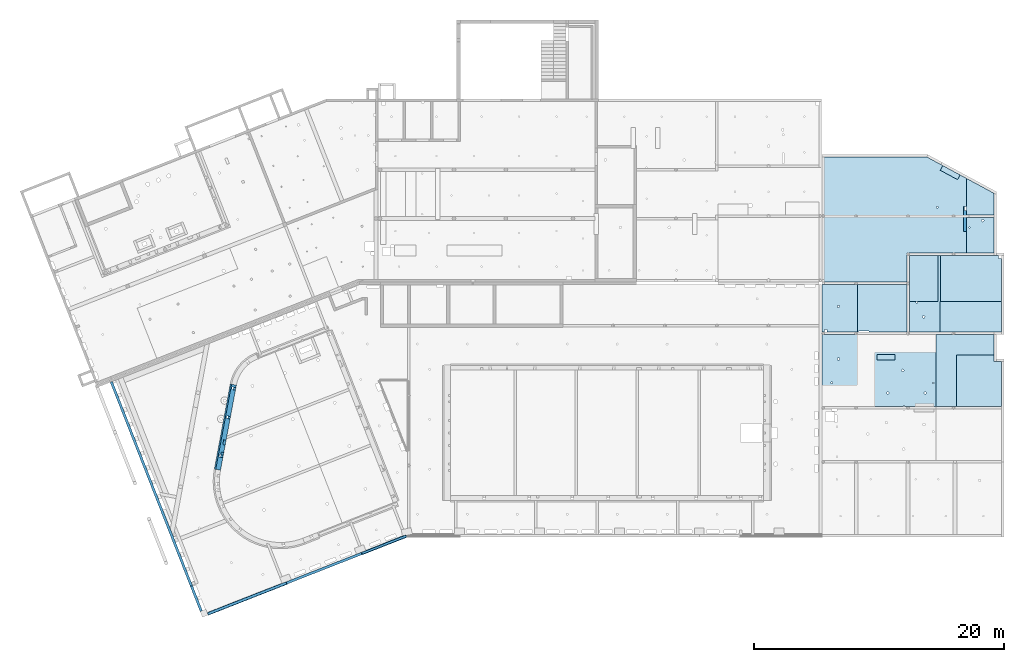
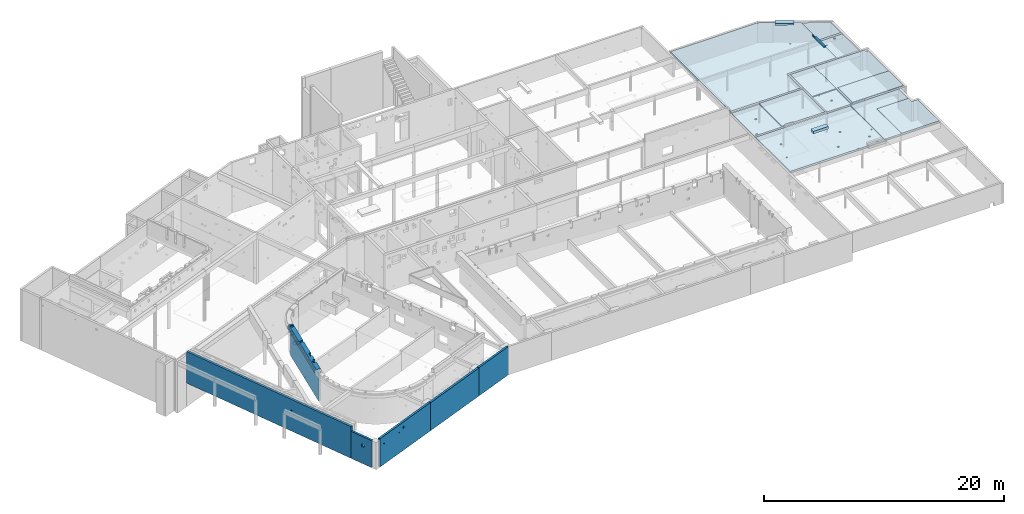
# One storey, part 13 of 28: 15 slabs, 5 walls, 31 openings.
"""IFC2X3 building model written with IfcOpenShell, lengths in metres."""

from ifc_helpers import new_model, entity, si_unit, converted_unit, direction, frame, frame_2d, origin, origin_with_axes, place, context, subcontext, project, spatial, polyline, rectangle, circle, outline, extrude, clip, bounded_halfspace, material, layer, layer_set, layer_usage, element, save


model = new_model("IFC2X3")

# Units and contexts
model_context = context("Model", 3, precision=1e-05, world=origin(), true_north=direction((-0.407059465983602, -0.913401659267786)))
body_context = subcontext(model_context, "Body", "Model", "MODEL_VIEW")
ifc_project = project(units=[si_unit("LENGTHUNIT", "METRE"), si_unit("AREAUNIT", "SQUARE_METRE"), si_unit("VOLUMEUNIT", "CUBIC_METRE"), si_unit("MASSUNIT", "GRAM", prefix="KILO"), converted_unit("PLANEANGLEUNIT", "DEGREE", entity("IfcPlaneAngleMeasure", 0.0174532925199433), si_unit("PLANEANGLEUNIT", "RADIAN"), dimensions=[0, 0, 0, 0, 0, 0, 0])], contexts=[model_context])

# Site, buildings, storey
site_placement = place(None, origin())
site = spatial("IfcSite", under=ifc_project, at=site_placement, Name="Site", CompositionType="ELEMENT")
building_1_placement = place(site_placement, origin())
building_1 = spatial("IfcBuilding", under=site, at=building_1_placement, Name="Site", CompositionType="COMPLEX")
building_2_placement = place(building_1_placement, origin())
building_2 = spatial("IfcBuilding", under=building_1, at=building_2_placement, Name="Bâtiments", CompositionType="ELEMENT")
storey_placement = place(building_2_placement, frame((0.0, 0.0, -5.3)))
storey = spatial("IfcBuildingStorey", under=building_2, at=storey_placement, Name="SOUS-SOL", CompositionType="ELEMENT", Elevation=-5.3)

# Slab, openings
ifc_material_1 = material(Name="Béton")
slab_1_placement = place(storey_placement, frame((70.4327354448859, -9.25751215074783, 4.98)))
slab_1 = element("IfcSlab", 1, at=slab_1_placement, inside=storey, material=ifc_material_1, PredefinedType="FLOOR", context=body_context, shape_type="SweptSolid", body=[
    extrude(outline(polyline([(2.499641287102, 6.16186016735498), (9.61991372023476e-05, 6.16186016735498), (9.61991372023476e-05, 2.0014026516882), (0.0, 5.69254171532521e-05), (2.49959481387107, 0.0), (2.499641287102, 6.16186016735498)])), origin_with_axes(), (0.0, 0.0, 1.0), 0.2),
])
opening_1_placement = place(slab_1_placement, frame((1.06005576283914, 1.14501951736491, 0.0)))
element("IfcOpeningElement", 2, at=opening_1_placement, cuts=slab_1, Name="Trémie dans dalle", ObjectType="Opening", context=body_context, shape_type="SweptSolid", body=[
    extrude(circle(Radius=0.0900000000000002, at=frame_2d((-2.91038304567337e-14, -4.54747350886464e-15), x_axis=(1.0, 0.0))), frame((0.0896285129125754, 0.0896285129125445, 0.0), z_axis=(0.0, 0.0, 1.0), x_axis=(1.0, 0.0, 0.0)), (0.0, 0.0, 1.0), 0.2),
])
opening_2_placement = place(slab_1_placement, frame((0.545326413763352, 2.34288312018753, 0.0)))
element("IfcOpeningElement", 3, at=opening_2_placement, cuts=slab_1, Name="Trémie dans dalle", ObjectType="Opening", context=body_context, shape_type="SweptSolid", body=[
    extrude(rectangle(XDim=0.1, YDim=0.1, at=frame_2d((0.0, 0.0), x_axis=(0.0, -1.0))), frame((0.05, 0.05, 0.0), z_axis=(0.0, 0.0, 1.0), x_axis=(1.0, 0.0, 0.0)), (0.0, 0.0, 1.0), 0.2),
])

# Slab, opening
ifc_material_2 = material(Name="Béton")
slab_2_placement = place(storey_placement, frame((72.7323302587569, -9.25751215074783, 5.06)))
slab_2 = element("IfcSlab", 4, at=slab_2_placement, inside=storey, material=ifc_material_2, PredefinedType="FLOOR", context=body_context, shape_type="SweptSolid", body=[
    extrude(outline(polyline([(0.0, 0.0), (5.0807749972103, 0.0), (5.0807749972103, 6.16186016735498), (4.64732309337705e-05, 6.16186016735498), (0.0, 0.0)])), origin_with_axes(), (0.0, 0.0, 1.0), 0.2),
])
opening_3_placement = place(slab_2_placement, frame((4.83185696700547, 5.91262055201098, 0.0)))
element("IfcOpeningElement", 5, at=opening_3_placement, cuts=slab_2, Name="Trémie dans dalle", ObjectType="Opening", context=body_context, shape_type="SweptSolid", body=[
    extrude(rectangle(XDim=0.25, YDim=0.25, at=frame_2d((0.0, 0.0), x_axis=(0.0, -1.0))), frame((0.125, 0.125, 0.0), z_axis=(0.0, 0.0, 1.0), x_axis=(1.0, 0.0, 0.0)), (0.0, 0.0, 1.0), 0.2),
])

# Slab
ifc_material_3 = material(Name="Béton")
slab_3_placement = place(storey_placement, frame((72.8821039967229, -9.25751215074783, 5.26)))
element("IfcSlab", 6, at=slab_3_placement, inside=storey, material=ifc_material_3, PredefinedType="FLOOR", context=body_context, shape_type="SweptSolid", body=[
    extrude(rectangle(XDim=2.46924607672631, YDim=4.93100125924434, at=frame_2d((2.46550062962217, -1.23462303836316), x_axis=(0.0, -1.0))), frame((0.0, 2.46924607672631, 0.0), z_axis=(0.0, 0.0, 1.0), x_axis=(1.0, 0.0, 0.0)), (0.0, 0.0, 1.0), 0.04),
])

# Slab, opening
ifc_material_4 = material(Name="Béton")
slab_4_placement = place(storey_placement, frame((72.5530044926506, -15.2131733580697, 5.06)))
slab_4 = element("IfcSlab", 7, at=slab_4_placement, inside=storey, material=ifc_material_4, PredefinedType="FLOOR", context=body_context, shape_type="SweptSolid", body=[
    extrude(outline(polyline([(7.24795021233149e-06, 5.75581816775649), (0.0, 0.0), (5.2601017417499, 0.000237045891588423), (5.2601017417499, 3.60152029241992), (4.65949691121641, 3.60152048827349), (4.65984638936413, 5.75581816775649), (7.24795021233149e-06, 5.75581816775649)])), origin_with_axes(), (0.0, 0.0, 1.0), 0.2),
])
opening_4_placement = place(slab_4_placement, frame((5.0114216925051, 3.35203585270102, 0.0)))
element("IfcOpeningElement", 8, at=opening_4_placement, cuts=slab_4, Name="Trémie dans dalle", ObjectType="Opening", context=body_context, shape_type="SweptSolid", body=[
    extrude(rectangle(XDim=0.25, YDim=0.25, at=frame_2d((0.0, 1.81898940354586e-15), x_axis=(0.0, -1.0))), frame((0.125, 0.124999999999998, 0.0), z_axis=(0.0, 0.0, 1.0), x_axis=(1.0, 0.0, 0.0)), (0.0, 0.0, 1.0), 0.2),
])

# Slab, openings
ifc_material_5 = material(Name="Béton")
slab_5_placement = place(storey_placement, frame((63.4333554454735, -15.2137450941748, 4.98)))
slab_5 = element("IfcSlab", 9, at=slab_5_placement, inside=storey, material=ifc_material_5, PredefinedType="FLOOR", context=body_context, shape_type="SweptSolid", body=[
    extrude(outline(polyline([(0.000113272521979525, 5.76642007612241), (0.0, 0.0), (9.31965629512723, 0.0), (9.3196562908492, 5.76639849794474), (7.3543008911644, 5.76636366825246), (6.89947525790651, 5.76630680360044), (2.73956105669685, 5.76630680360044), (0.000103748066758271, 5.76645834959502), (0.000113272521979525, 5.76642007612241)])), origin_with_axes(), (0.0, 0.0, 1.0), 0.2),
])
opening_5_placement = place(slab_5_placement, frame((6.52432395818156, 0.000523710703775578, 0.0)))
element("IfcOpeningElement", 10, at=opening_5_placement, cuts=slab_5, Name="Trémie dans dalle", ObjectType="Opening", context=body_context, shape_type="SweptSolid", body=[
    extrude(rectangle(XDim=0.1, YDim=0.1, at=frame_2d((-1.45519152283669e-14, -3.63797880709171e-15), x_axis=(0.0, -1.0))), frame((0.0500000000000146, 0.0500000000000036, 0.0), z_axis=(0.0, 0.0, 1.0), x_axis=(1.0, 0.0, 0.0)), (0.0, 0.0, 1.0), 0.2),
])
opening_6_placement = place(slab_5_placement, frame((8.40921386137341, 0.000523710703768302, 0.0)))
element("IfcOpeningElement", 11, at=opening_6_placement, cuts=slab_5, Name="Trémie dans dalle", ObjectType="Opening", context=body_context, shape_type="SweptSolid", body=[
    extrude(rectangle(XDim=0.15, YDim=0.15, at=frame_2d((0.0, 0.0), x_axis=(0.0, -1.0))), frame((0.075, 0.075, 0.0), z_axis=(0.0, 0.0, 1.0), x_axis=(1.0, 0.0, 0.0)), (0.0, 0.0, 1.0), 0.2),
])
opening_7_placement = place(slab_5_placement, frame((8.8693675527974, 1.84521758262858, 0.0)))
element("IfcOpeningElement", 12, at=opening_7_placement, cuts=slab_5, Name="Trémie dans dalle", ObjectType="Opening", context=body_context, shape_type="SweptSolid", body=[
    extrude(rectangle(XDim=0.1, YDim=0.1, at=frame_2d((0.0, 0.0), x_axis=(0.0, -1.0))), frame((0.05, 0.05, 0.0), z_axis=(0.0, 0.0, 1.0), x_axis=(1.0, 0.0, 0.0)), (0.0, 0.0, 1.0), 0.2),
])
opening_8_placement = place(slab_5_placement, frame((0.728205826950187, 1.86859987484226, 0.0)))
element("IfcOpeningElement", 13, at=opening_8_placement, cuts=slab_5, Name="Trémie dans dalle", ObjectType="Opening", context=body_context, shape_type="SweptSolid", body=[
    extrude(rectangle(XDim=0.1, YDim=0.1, at=frame_2d((0.0, 3.63797880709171e-15), x_axis=(0.0, -1.0))), frame((0.05, 0.0499999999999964, 0.0), z_axis=(0.0, 0.0, 1.0), x_axis=(1.0, 0.0, 0.0)), (0.0, 0.0, 1.0), 0.2),
])
opening_9_placement = place(slab_5_placement, frame((8.18226010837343, 1.01054076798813, 0.0)))
element("IfcOpeningElement", 14, at=opening_9_placement, cuts=slab_5, Name="Trémie dans dalle", ObjectType="Opening", context=body_context, shape_type="SweptSolid", body=[
    extrude(circle(Radius=0.0899999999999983, at=frame_2d((0.0, 3.63797880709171e-15), x_axis=(1.0, 0.0))), frame((0.0896285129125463, 0.0896285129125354, 0.0), z_axis=(0.0, 0.0, 1.0), x_axis=(1.0, 0.0, 0.0)), (0.0, 0.0, 1.0), 0.2),
])
opening_10_placement = place(slab_5_placement, frame((5.17726010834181, 1.01054133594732, 0.0)))
element("IfcOpeningElement", 15, at=opening_10_placement, cuts=slab_5, Name="Trémie dans dalle", ObjectType="Opening", context=body_context, shape_type="SweptSolid", body=[
    extrude(circle(Radius=0.0899999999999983, at=frame_2d((2.91038304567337e-14, 1.81898940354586e-15), x_axis=(1.0, 0.0))), frame((0.0896285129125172, 0.0896285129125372, 0.0), z_axis=(0.0, 0.0, 1.0), x_axis=(1.0, 0.0, 0.0)), (0.0, 0.0, 1.0), 0.2),
])
opening_11_placement = place(slab_5_placement, frame((6.37926135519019, 2.81653445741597, 0.0)))
element("IfcOpeningElement", 16, at=opening_11_placement, cuts=slab_5, Name="Trémie dans dalle", ObjectType="Opening", context=body_context, shape_type="SweptSolid", body=[
    extrude(circle(Radius=0.0899999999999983, at=frame_2d((-1.45519152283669e-14, -1.81898940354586e-15), x_axis=(1.0, 0.0))), frame((0.0896285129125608, 0.0896285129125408, 0.0), z_axis=(0.0, 0.0, 1.0), x_axis=(1.0, 0.0, 0.0)), (0.0, 0.0, 1.0), 0.2),
])
opening_12_placement = place(slab_5_placement, frame((1.23256637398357, 3.71925149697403, 0.0)))
element("IfcOpeningElement", 17, at=opening_12_placement, cuts=slab_5, Name="Trémie dans dalle", ObjectType="Opening", context=body_context, shape_type="SweptSolid", body=[
    extrude(circle(Radius=0.0899999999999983, at=frame_2d((-2.91038304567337e-14, 7.27595761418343e-15), x_axis=(1.0, 0.0))), frame((0.0896285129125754, 0.0896285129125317, 0.0), z_axis=(0.0, 0.0, 1.0), x_axis=(1.0, 0.0, 0.0)), (0.0, 0.0, 1.0), 0.2),
])

# Slab, opening
ifc_material_6 = material(Name="Béton")
slab_6_placement = place(storey_placement, frame((66.0728772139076, -9.25749883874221, 5.06)))
slab_6 = element("IfcSlab", 18, at=slab_6_placement, inside=storey, material=ifc_material_6, PredefinedType="FLOOR", context=body_context, shape_type="SweptSolid", body=[
    extrude(outline(polyline([(0.00101761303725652, 3.81847891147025), (0.0, 0.0), (1.14096915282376, 5.03764197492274e-06), (1.14097057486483, 5.03765913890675e-06), (4.03421639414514, 3.99599856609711e-05), (4.15997326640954, 4.62797387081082e-05), (4.16005465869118, 3.3568817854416), (4.16007684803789, 3.81851330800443), (0.00101761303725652, 3.81847891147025)])), origin_with_axes(), (0.0, 0.0, 1.0), 0.2),
])
opening_13_placement = place(slab_6_placement, frame((0.300970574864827, 5.03764197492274e-06, 0.0)))
element("IfcOpeningElement", 19, at=opening_13_placement, cuts=slab_6, Name="Trémie dans dalle", ObjectType="Opening", context=body_context, shape_type="SweptSolid", body=[
    extrude(rectangle(XDim=0.1, YDim=0.84, at=frame_2d((0.0, 0.0), x_axis=(0.0, -1.0))), frame((0.42, 0.05, 0.0), z_axis=(0.0, 0.0, 1.0), x_axis=(1.0, 0.0, 0.0)), (0.0, 0.0, 1.0), 0.2),
])

# Slab, openings
ifc_material_7 = material(Name="Béton")
slab_7_placement = place(storey_placement, frame((63.4333828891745, -9.25750515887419, 4.98)))
slab_7 = element("IfcSlab", 20, at=slab_7_placement, inside=storey, material=ifc_material_7, PredefinedType="FLOOR", context=body_context, shape_type="SweptSolid", body=[
    extrude(outline(polyline([(2.73957412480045, 3.81847787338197), (5.28577113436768e-06, 3.81853818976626), (0.0, 6.68675411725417e-05), (2.73953801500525, 6.03185371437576e-06), (2.83949432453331, 0.0), (2.84051193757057, 3.81847891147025), (2.73957412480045, 3.81847787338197)])), origin_with_axes(), (0.0, 0.0, 1.0), 0.2),
])
opening_14_placement = place(slab_7_placement, frame((0.20052720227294, 0.000522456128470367, 0.0)))
element("IfcOpeningElement", 21, at=opening_14_placement, cuts=slab_7, Name="Trémie dans dalle", ObjectType="Opening", context=body_context, shape_type="SweptSolid", body=[
    extrude(rectangle(XDim=0.2, YDim=0.2, at=frame_2d((0.0, 0.0), x_axis=(0.0, -1.0))), frame((0.1, 0.1, 0.0), z_axis=(0.0, 0.0, 1.0), x_axis=(1.0, 0.0, 0.0)), (0.0, 0.0, 1.0), 0.2),
])
opening_15_placement = place(slab_7_placement, frame((1.23010374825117, 1.97638282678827, 0.0)))
element("IfcOpeningElement", 22, at=opening_15_placement, cuts=slab_7, Name="Trémie dans dalle", ObjectType="Opening", context=body_context, shape_type="SweptSolid", body=[
    extrude(circle(Radius=0.0900000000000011, at=frame_2d((3.63797880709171e-14, -1.81898940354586e-15), x_axis=(1.0, 0.0))), frame((0.0896285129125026, 0.0896285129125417, 0.0), z_axis=(0.0, 0.0, 1.0), x_axis=(1.0, 0.0, 0.0)), (0.0, 0.0, 1.0), 0.2),
])

ifc_material_8 = material(Name="Béton")
slab_8_placement = place(storey_placement, frame((74.997161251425, -2.89544962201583, 4.98)))
slab_8 = element("IfcSlab", 23, at=slab_8_placement, inside=storey, material=ifc_material_8, PredefinedType="FLOOR", context=body_context, shape_type="SweptSolid", body=[
    extrude(outline(polyline([(2.21609382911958, 0.000107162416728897), (2.21609357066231, 2.84717558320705), (0.0, 2.84717786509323), (2.0027293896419e-05, 0.0), (2.21609382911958, 0.000107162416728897)])), origin_with_axes(), (0.0, 0.0, 1.0), 0.2),
])
opening_16_placement = place(slab_8_placement, frame((0.200065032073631, 1.98323043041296, 0.0)))
element("IfcOpeningElement", 24, at=opening_16_placement, cuts=slab_8, Name="Trémie dans dalle", ObjectType="Opening", context=body_context, shape_type="SweptSolid", body=[
    extrude(rectangle(XDim=0.1, YDim=0.1, at=frame_2d((-1.45519152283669e-14, 1.13686837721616e-16), x_axis=(0.0, -1.0))), frame((0.0500000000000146, 0.0499999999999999, 0.0), z_axis=(0.0, 0.0, 1.0), x_axis=(1.0, 0.0, 0.0)), (0.0, 0.0, 1.0), 0.2),
])
opening_17_placement = place(slab_8_placement, frame((1.22398013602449, 2.48241765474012, 0.0)))
element("IfcOpeningElement", 25, at=opening_17_placement, cuts=slab_8, Name="Trémie dans dalle", ObjectType="Opening", context=body_context, shape_type="SweptSolid", body=[
    extrude(circle(Radius=0.0899999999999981, at=frame_2d((2.91038304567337e-14, 1.13686837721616e-16), x_axis=(1.0, 0.0))), frame((0.0896285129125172, 0.0896285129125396, 0.0), z_axis=(0.0, 0.0, 1.0), x_axis=(1.0, 0.0, 0.0)), (0.0, 0.0, 1.0), 0.2),
])

# Slab, opening
ifc_material_9 = material(Name="Béton")
slab_9_placement = place(storey_placement, frame((74.7821513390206, -1.18517329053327, 5.26)))
slab_9 = element("IfcSlab", 26, at=slab_9_placement, inside=storey, material=ifc_material_9, PredefinedType="FLOOR", context=body_context, shape_type="SweptSolid", body=[
    extrude(outline(polyline([(0.00086792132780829, 1.33690154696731), (0.00086792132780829, 2.27373675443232e-16), (0.215151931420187, 0.0), (0.215024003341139, 1.13690134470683), (0.215024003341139, 1.33690134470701), (0.215151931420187, 2.01574269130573), (0.0, 2.01574269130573), (0.00086792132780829, 1.33690154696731)])), origin_with_axes(), (0.0, 0.0, 1.0), 0.18),
])
opening_18_placement = place(slab_9_placement, frame((0.0650742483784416, 1.66574269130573, 0.0)))
element("IfcOpeningElement", 27, at=opening_18_placement, cuts=slab_9, Name="Trémie dans dalle", ObjectType="Opening", context=body_context, shape_type="SweptSolid", body=[
    extrude(rectangle(XDim=0.35, YDim=0.15, at=frame_2d((0.0, -2.8421709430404e-17), x_axis=(0.0, -1.0))), frame((0.075, 0.175, 0.0), z_axis=(0.0, 0.0, 1.0), x_axis=(1.0, 0.0, 0.0)), (0.0, 0.0, 1.0), 0.18),
])

# Slab, openings
ifc_material_10 = material(Name="Béton")
slab_10_placement = place(storey_placement, frame((63.4333902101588, -5.23911680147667, 5.06)))
slab_10 = element("IfcSlab", 28, at=slab_10_placement, inside=storey, material=ifc_material_10, PredefinedType="FLOOR", context=body_context, shape_type="SweptSolid", body=[
    extrude(outline(polyline([(0.0, 10.012935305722), (4.5597452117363e-06, 0.000149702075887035), (6.79947021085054, 0.0), (6.79943976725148, 2.34345581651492), (11.5636395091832, 2.3437770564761), (11.5635225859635, 8.31050241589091), (8.4143229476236, 10.0129196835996), (0.0, 10.012935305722)])), origin_with_axes(), (0.0, 0.0, 1.0), 0.2),
])
opening_19_placement = place(slab_10_placement, frame((9.18852951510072, 5.95017553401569, 0.0)))
element("IfcOpeningElement", 29, at=opening_19_placement, cuts=slab_10, Name="Trémie dans dalle", ObjectType="Opening", context=body_context, shape_type="SweptSolid", body=[
    extrude(rectangle(XDim=0.1, YDim=0.1, at=frame_2d((0.0, 0.0), x_axis=(0.0, -1.0))), frame((0.05, 0.05, 0.0), z_axis=(0.0, 0.0, 1.0), x_axis=(1.0, 0.0, 0.0)), (0.0, 0.0, 1.0), 0.2),
])
opening_20_placement = place(slab_10_placement, frame((11.4138362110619, 4.9600445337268, -0.08)))
element("IfcOpeningElement", 30, at=opening_20_placement, cuts=slab_10, Name="Trémie dans dalle", ObjectType="Opening", context=body_context, shape_type="SweptSolid", body=[
    extrude(rectangle(XDim=0.15, YDim=0.15, at=frame_2d((0.0, 1.4210854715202e-17), x_axis=(0.0, -1.0))), frame((0.075, 0.075, 0.0), z_axis=(0.0, 0.0, 1.0), x_axis=(1.0, 0.0, 0.0)), (0.0, 0.0, 1.0), 0.2),
])
opening_21_placement = place(slab_10_placement, frame((11.4138353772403, 5.71968620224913, 0.0)))
element("IfcOpeningElement", 31, at=opening_21_placement, cuts=slab_10, Name="Trémie dans dalle", ObjectType="Opening", context=body_context, shape_type="SweptSolid", body=[
    extrude(rectangle(XDim=0.35, YDim=0.15, at=frame_2d((0.0, -2.8421709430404e-17), x_axis=(0.0, -1.0))), frame((0.075, 0.175, 0.0), z_axis=(0.0, 0.0, 1.0), x_axis=(1.0, 0.0, 0.0)), (0.0, 0.0, 1.0), 0.2),
])

# Slabs
ifc_material_11 = material(Name="Béton")
slab_11_placement = place(storey_placement, frame((74.9969127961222, 0.15172596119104, 4.98)))
element("IfcSlab", 32, at=slab_11_placement, inside=storey, material=ifc_material_11, PredefinedType="FLOOR", context=body_context, shape_type="SweptSolid", body=[
    extrude(outline(polyline([(2.21634225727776, 1.72153322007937), (0.0, 2.9196596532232), (0.000247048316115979, 2.28188791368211e-06), (2.21634239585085, 0.0), (2.21634225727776, 1.72153322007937)])), origin_with_axes(), (0.0, 0.0, 1.0), 0.2),
])
ifc_material_12 = material(Name="Béton")
slab_12_placement = place(storey_placement, frame((74.1928349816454, -15.2132553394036, 5.26)))
element("IfcSlab", 33, at=slab_12_placement, inside=storey, material=ifc_material_12, PredefinedType="FLOOR", context=body_context, shape_type="SweptSolid", body=[
    extrude(outline(polyline([(0.0, 0.0), (3.62027125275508, 0.000319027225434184), (3.62159120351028, 3.60211783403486), (3.01966642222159, 3.60160246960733), (3.01972621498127, 4.13576380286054), (0.0, 4.13576380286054), (0.0, 0.0)])), origin_with_axes(), (0.0, 0.0, 1.0), 0.04),
])
ifc_material_13 = material(Name="Béton")
slab_13_placement = place(storey_placement, frame((72.9036550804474, 2.96426841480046, 5.26)))
element("IfcSlab", 34, at=slab_13_placement, inside=storey, material=ifc_material_13, PredefinedType="FLOOR", context=body_context, shape_type="SweptSolid", body=[
    extrude(outline(polyline([(1.59163793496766, 0.378286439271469), (0.204499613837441, 1.12770906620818), (0.0, 0.749875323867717), (1.38713966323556, 0.0), (1.59163793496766, 0.378286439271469)])), origin_with_axes(), (0.0, 0.0, 1.0), 0.18),
])
ifc_material_14 = material(Name="Béton")
slab_14_placement = place(storey_placement, frame((67.8429801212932, -11.4676588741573, 5.18)))
element("IfcSlab", 35, at=slab_14_placement, inside=storey, material=ifc_material_14, PredefinedType="FLOOR", context=body_context, shape_type="SweptSolid", body=[
    extrude(rectangle(XDim=1.45499999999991, YDim=0.440023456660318, at=frame_2d((-0.727499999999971, -0.220011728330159), x_axis=(-1.0, 0.0))), frame((1.45499999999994, 0.440023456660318, 0.0), z_axis=(0.0, 0.0, 1.0), x_axis=(1.0, 0.0, 0.0)), (0.0, 0.0, 1.0), 0.26),
])
ifc_material_15 = material(Name="Béton")
slab_15_placement = place(storey_placement, frame((70.4328423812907, -6.78826607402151, 5.18)))
element("IfcSlab", 36, at=slab_15_placement, inside=storey, material=ifc_material_15, PredefinedType="FLOOR", context=body_context, shape_type="SweptSolid", body=[
    extrude(outline(polyline([(2.29950650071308, 0.0), (2.29953435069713, 3.69261409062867), (0.0, 3.69262118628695), (0.0, 0.0), (2.29950650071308, 0.0)])), origin_with_axes(), (0.0, 0.0, 1.0), 0.08),
])

# Wall, openings
ifc_material_16 = material(Name="Béton")
wall_1_placement = place(storey_placement, frame((14.2752439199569, -31.9097258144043, 2.4), z_axis=(0.0, 0.0, 1.0), x_axis=(0.930909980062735, 0.365248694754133, 0.0)))
wall_1 = element("IfcWall", 37, at=wall_1_placement, inside=storey, material=ifc_material_16, context=body_context, shape_type="SweptSolid", body=[
    extrude(outline(polyline([(0.0680027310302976, -0.0266813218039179), (13.3095742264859, -0.0266813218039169), (6.84957474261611, -0.0266729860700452), (6.84957474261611, 0.173318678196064), (0.0680027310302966, 0.173318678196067), (0.0680027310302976, -0.0266813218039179)])), frame((-0.0680027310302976, 0.0266813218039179, 0.0), z_axis=(0.0, 0.0, 1.0), x_axis=(1.0, 0.0, 0.0)), (0.0, 0.0, 1.0), 2.88),
    extrude(outline(polyline([(0.0680027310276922, 0.173318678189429), (0.0680027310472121, -0.0266813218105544), (4.01642222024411, -0.0266813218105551), (4.01642222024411, 0.132224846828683), (3.77934835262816, 0.173318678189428), (0.0680027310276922, 0.173318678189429)])), frame((13.1735687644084, 0.0266813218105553, 0.0), z_axis=(0.0, 0.0, 1.0), x_axis=(1.0, 0.0, 0.0)), (0.0, 0.0, 1.0), 2.88),
])
opening_22_placement = place(wall_1_placement, frame((3.21217441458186, 0.199999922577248, 2.25), z_axis=(1.36424205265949e-14, -1.0, 0.0), x_axis=(0.0, 0.0, 1.0)))
element("IfcOpeningElement", 38, at=opening_22_placement, cuts=wall_1, Name="PB-120", ObjectType="Opening", context=body_context, shape_type="SweptSolid", body=[
    extrude(outline(polyline([(0.0, 0.15), (0.2, 0.15), (0.2, 0.0), (0.0, 0.0), (0.0, 0.15)])), origin_with_axes(), (0.0, 0.0, 1.0), 0.199999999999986),
])
opening_23_placement = place(wall_1_placement, frame((2.62404943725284, 0.199994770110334, 2.06), z_axis=(-4.54747350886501e-15, -1.0, 0.0), x_axis=(0.0, 0.0, 1.0)))
element("IfcOpeningElement", 39, at=opening_23_placement, cuts=wall_1, Name="PB-121", ObjectType="Opening", context=body_context, shape_type="SweptSolid", body=[
    extrude(outline(polyline([(0.0, 0.0999999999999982), (0.1, 0.0999999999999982), (0.1, 0.0), (0.0, 0.0), (0.0, 0.0999999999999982)])), origin_with_axes(), (0.0, 0.0, 1.0), 0.199999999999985),
])
opening_24_placement = place(wall_1_placement, frame((0.597555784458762, 0.199999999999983, 2.06), z_axis=(-3.41060513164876e-15, -1.0, 0.0), x_axis=(0.0, 0.0, 1.0)))
element("IfcOpeningElement", 40, at=opening_24_placement, cuts=wall_1, Name="PB-122", ObjectType="Opening", context=body_context, shape_type="SweptSolid", body=[
    extrude(outline(polyline([(0.0, 0.0999999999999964), (0.1, 0.0999999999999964), (0.1, 0.0), (0.0, 0.0), (0.0, 0.0999999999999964)])), origin_with_axes(), (0.0, 0.0, 1.0), 0.199999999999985),
])

# Wall
ifc_material_17 = material(Name="Béton")
ifc_layer_1 = layer(ifc_material_17, 0.199991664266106)
ifc_layer_set_1 = layer_set([ifc_layer_1])
ifc_layer_usage_1 = layer_usage(ifc_layer_set_1, "AXIS2", "POSITIVE", -0.199991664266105)
wall_2_placement = place(storey_placement, frame((20.5882739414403, -29.4327577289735, 2.4), z_axis=(0.0, 0.0, 1.0), x_axis=(0.930909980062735, 0.365248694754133, 0.0)))
element("IfcWallStandardCase", 41, at=wall_2_placement, inside=storey, material=ifc_layer_usage_1, context=body_context, shape_type="SweptSolid", body=[
    extrude(rectangle(XDim=6.45999948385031, YDim=0.199991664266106, at=frame_2d((3.22999974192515, 0.0999958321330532), x_axis=(1.0, 0.0))), origin_with_axes(), (0.0, 0.0, 1.0), 2.85),
])

# Wall, opening
ifc_material_18 = material(Name="Béton")
ifc_layer_2 = layer(ifc_material_18, 0.199999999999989)
ifc_layer_set_2 = layer_set([ifc_layer_2])
ifc_layer_usage_2 = layer_usage(ifc_layer_set_2, "AXIS2", "POSITIVE", 0.0)
wall_3_placement = place(storey_placement, frame((12.8362591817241, -29.6111132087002, 2.4), z_axis=(0.0, 0.0, 1.0), x_axis=(0.365248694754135, -0.930909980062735, 0.0)))
wall_3 = element("IfcWallStandardCase", 42, at=wall_3_placement, inside=storey, material=ifc_layer_usage_2, context=body_context, shape_type="SweptSolid", body=[
    extrude(outline(polyline([(-1.87651154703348, 0.736261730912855), (0.28887716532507, 0.736261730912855), (0.288877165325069, 0.936261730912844), (-1.87651103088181, 0.936261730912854), (-1.87651154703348, 0.736261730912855)])), frame((1.87651154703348, -0.736261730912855, 0.0), z_axis=(0.0, 0.0, 1.0), x_axis=(1.0, 0.0, 0.0)), (0.0, 0.0, 1.0), 2.76),
])
opening_25_placement = place(wall_3_placement, frame((1.37681345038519, 0.199999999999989, 1.72), z_axis=(5.68434188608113e-15, -1.0, 0.0), x_axis=(0.0, 0.0, 1.0)))
element("IfcOpeningElement", 43, at=opening_25_placement, cuts=wall_3, Name="PB--119", ObjectType="Opening", context=body_context, shape_type="SweptSolid", body=[
    extrude(outline(polyline([(0.0, 0.25), (0.25, 0.25), (0.25, 0.0), (0.0, 0.0), (0.0, 0.25)])), origin_with_axes(), (0.0, 0.0, 1.0), 0.199999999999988),
])

# Wall, openings
ifc_material_19 = material(Name="Béton")
wall_4_placement = place(storey_placement, frame((15.2602650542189, -20.3156326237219, 1.81), z_axis=(0.0, 0.0, 1.0), x_axis=(0.183564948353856, 0.98300758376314, 0.0)))
wall_4 = element("IfcWall", 44, at=wall_4_placement, inside=storey, material=ifc_material_19, context=body_context, shape_type="Clipping", body=[
    clip(clip(extrude(outline(polyline([(0.0737440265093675, 0.0137708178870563), (0.0737452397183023, -0.176227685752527), (0.0702560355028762, -0.176227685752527), (0.07025603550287, -0.376227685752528), (7.00731024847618, -0.376227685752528), (7.00731024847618, -0.176227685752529), (7.00730876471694, 0.0137723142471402), (0.0737440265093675, 0.0137708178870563)])), frame((-0.07025603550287, 0.376227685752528, 0.0), z_axis=(0.0, 0.0, 1.0), x_axis=(1.0, 0.0, 0.0)), (0.0, 0.0, 1.0), 3.24), bounded_halfspace(frame((3.47027075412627, 0.349999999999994, 2.88), z_axis=(0.0, 0.0, 1.0), x_axis=(1.0, 2.77555756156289e-17, 0.0)), True, origin_with_axes(), polyline([(0.0034892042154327, 0.199999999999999), (6.93705421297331, 0.199999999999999), (6.93705231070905, 0.499999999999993), (0.00348728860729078, 0.499999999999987), (0.0034892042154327, 0.199999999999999)]))), bounded_halfspace(frame((3.47027026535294, 0.444999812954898, 3.14), z_axis=(0.0, 0.0, -1.0), x_axis=(0.999999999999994, 1.07906970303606e-07, 0.0)), True, origin_with_axes(), polyline([(0.00348799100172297, 0.389999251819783), (6.93705347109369, 0.389999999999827), (6.93705231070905, 0.499999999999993), (0.00348728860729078, 0.499999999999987), (0.00348799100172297, 0.389999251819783)]))),
    clip(clip(extrude(outline(polyline([(6.95341379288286, -0.106293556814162), (6.9534152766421, -0.106293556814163), (6.9534152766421, -0.106234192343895), (6.9534137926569, -0.106234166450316), (6.95341337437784, 0.00370644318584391), (0.0198483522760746, 0.00370644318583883), (0.019849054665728, -0.106293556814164), (6.95341379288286, -0.106293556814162)])), frame((-0.0163610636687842, 0.49629355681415, 0.0), z_axis=(0.0, 0.0, 1.0), x_axis=(1.0, 0.0, 0.0)), (0.0, 0.0, 1.0), 3.24), bounded_halfspace(frame((3.47027075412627, 0.349999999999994, 2.88), z_axis=(0.0, 0.0, 1.0), x_axis=(1.0, 2.77555756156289e-17, 0.0)), True, origin_with_axes(), polyline([(0.0034892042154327, 0.199999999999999), (6.93705421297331, 0.199999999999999), (6.93705231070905, 0.499999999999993), (0.00348728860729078, 0.499999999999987), (0.0034892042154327, 0.199999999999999)]))), bounded_halfspace(frame((3.47027026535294, 0.444999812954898, 3.14), z_axis=(0.0, 0.0, -1.0), x_axis=(0.999999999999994, 1.07906970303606e-07, 0.0)), True, origin_with_axes(), polyline([(0.00348799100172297, 0.389999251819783), (6.93705347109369, 0.389999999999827), (6.93705231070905, 0.499999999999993), (0.00348728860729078, 0.499999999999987), (0.00348799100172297, 0.389999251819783)]))),
])
opening_26_placement = place(wall_4_placement, frame((6.52850547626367, -6.82121026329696e-16, 2.59), z_axis=(-9.09494701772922e-15, 1.0, 0.0), x_axis=(0.0, 0.0, 1.0)))
element("IfcOpeningElement", 45, at=opening_26_placement, cuts=wall_4, Name="Percement dans mur", ObjectType="Opening", context=body_context, shape_type="SweptSolid", body=[
    extrude(outline(polyline([(0.0, 0.2), (0.65, 0.2), (0.65, 0.0), (0.0, 0.0), (0.0, 0.2)])), origin_with_axes(), (0.0, 0.0, 1.0), 0.200000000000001),
    extrude(outline(polyline([(0.0, 0.2), (0.65, 0.2), (0.65, 0.0), (0.0, 0.0), (0.0, 0.2)])), frame((0.0, -3.33955085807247e-16, 0.200000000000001), z_axis=(0.0, 0.0, 1.0), x_axis=(1.0, 0.0, 0.0)), (0.0, 0.0, 1.0), 0.0999999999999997),
])
opening_27_placement = place(wall_4_placement, frame((4.17850560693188, -1.70530256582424e-15, 2.59), z_axis=(-4.54747350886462e-15, 1.0, 0.0), x_axis=(0.0, 0.0, 1.0)))
element("IfcOpeningElement", 46, at=opening_27_placement, cuts=wall_4, Name="Percement dans mur", ObjectType="Opening", context=body_context, shape_type="SweptSolid", body=[
    extrude(outline(polyline([(0.0, 0.2), (0.65, 0.2), (0.65, 0.0), (0.0, 0.0), (0.0, 0.2)])), origin_with_axes(), (0.0, 0.0, 1.0), 0.200000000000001),
    extrude(outline(polyline([(0.0, 0.2), (0.65, 0.2), (0.65, 0.0), (0.0, 0.0), (0.0, 0.2)])), frame((0.0, -3.90798504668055e-15, 0.200000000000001), z_axis=(0.0, 0.0, 1.0), x_axis=(1.0, 0.0, 0.0)), (0.0, 0.0, 1.0), 0.0999999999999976),
])
opening_28_placement = place(wall_4_placement, frame((2.05350576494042, -8.5265128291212e-16, 2.59), z_axis=(-4.54747350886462e-15, 1.0, 0.0), x_axis=(0.0, 0.0, 1.0)))
element("IfcOpeningElement", 47, at=opening_28_placement, cuts=wall_4, Name="Percement dans mur", ObjectType="Opening", context=body_context, shape_type="SweptSolid", body=[
    extrude(outline(polyline([(0.0, 0.399999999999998), (0.65, 0.399999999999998), (0.65, 0.0), (0.0, 0.0), (0.0, 0.399999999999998)])), origin_with_axes(), (0.0, 0.0, 1.0), 0.200000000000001),
])
opening_29_placement = place(wall_4_placement, frame((1.02850608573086, 0.0, 2.59), z_axis=(1.13686837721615e-14, 1.0, 0.0), x_axis=(0.0, 0.0, 1.0)))
element("IfcOpeningElement", 48, at=opening_29_placement, cuts=wall_4, Name="Percement dans mur", ObjectType="Opening", context=body_context, shape_type="SweptSolid", body=[
    extrude(outline(polyline([(0.0, 0.200000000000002), (0.65, 0.200000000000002), (0.65, 0.0), (0.0, 0.0), (0.0, 0.200000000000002)])), origin_with_axes(), (0.0, 0.0, 1.0), 0.200000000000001),
    extrude(outline(polyline([(0.0, 0.2), (0.65, 0.2), (0.65, 0.0), (0.0, 0.0), (0.0, 0.2)])), frame((0.0, -2.1245227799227e-15, 0.200000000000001), z_axis=(0.0, 0.0, 1.0), x_axis=(1.0, 0.0, 0.0)), (0.0, 0.0, 1.0), 0.099999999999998),
])
opening_30_placement = place(wall_4_placement, frame((1.22850608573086, 2.27373675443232e-16, 2.62), z_axis=(-4.54747350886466e-15, 1.0, 0.0), x_axis=(0.0, 0.0, 1.0)))
element("IfcOpeningElement", 49, at=opening_30_placement, cuts=wall_4, Name="Percement dans mur", ObjectType="Opening", context=body_context, shape_type="SweptSolid", body=[
    extrude(outline(polyline([(0.0, 0.220000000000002), (0.62, 0.220000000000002), (0.62, 0.0), (0.0, 0.0), (0.0, 0.220000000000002)])), origin_with_axes(), (0.0, 0.0, 1.0), 0.199999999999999),
])

# Wall, opening
ifc_material_20 = material(Name="Béton")
ifc_layer_3 = layer(ifc_material_20, 0.199999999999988)
ifc_layer_set_3 = layer_set([ifc_layer_3])
ifc_layer_usage_3 = layer_usage(ifc_layer_set_3, "AXIS2", "POSITIVE", 0.0)
wall_5_placement = place(storey_placement, frame((6.42500237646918, -13.2707319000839, 2.4), z_axis=(0.0, 0.0, 1.0), x_axis=(0.365248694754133, -0.930909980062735, 0.0)))
wall_5 = element("IfcWallStandardCase", 50, at=wall_5_placement, inside=storey, material=ifc_layer_usage_3, context=body_context, shape_type="SweptSolid", body=[
    extrude(outline(polyline([(-15.2114240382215, 5.96830294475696), (2.34170317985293, 5.96830294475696), (2.3417036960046, 6.16830294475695), (-15.2114240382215, 6.16830294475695), (-15.2114240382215, 5.96830294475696)])), frame((15.2114240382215, -5.96830294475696, 0.0), z_axis=(0.0, 0.0, 1.0), x_axis=(1.0, 0.0, 0.0)), (0.0, 0.0, 1.0), 3.23),
])
opening_31_placement = place(wall_5_placement, frame((11.2265059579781, 0.199999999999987, 2.05), z_axis=(-9.0949470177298e-15, -1.0, 0.0), x_axis=(0.0, 0.0, 1.0)))
element("IfcOpeningElement", 51, at=opening_31_placement, cuts=wall_5, Name="PB-111", ObjectType="Opening", context=body_context, shape_type="SweptSolid", body=[
    extrude(outline(polyline([(0.0, 0.1), (0.1, 0.1), (0.1, 0.0), (0.0, 0.0), (0.0, 0.1)])), origin_with_axes(), (0.0, 0.0, 1.0), 0.199999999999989),
])

save(model, "model.ifc")
